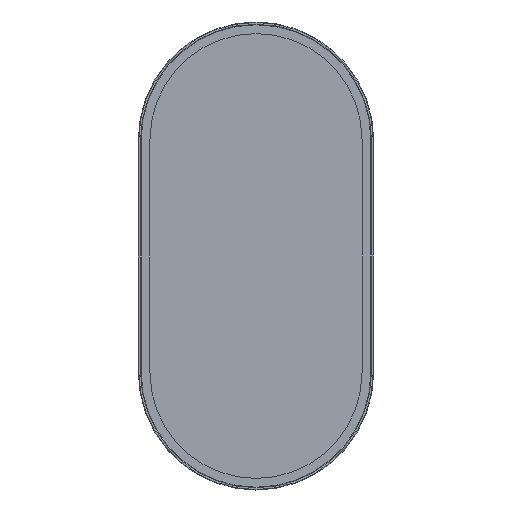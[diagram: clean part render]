
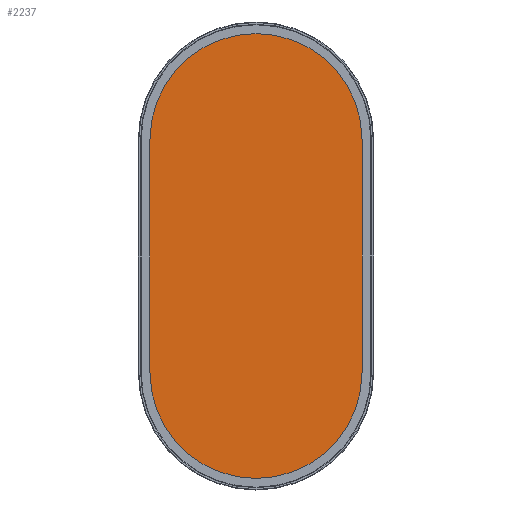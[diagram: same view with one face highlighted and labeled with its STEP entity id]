
A CAD part, front view. The second image highlights one B-rep face of the part: STEP entity #2237.
In plain terms, the highlighted planar face has unit normal (0, -1, 0).
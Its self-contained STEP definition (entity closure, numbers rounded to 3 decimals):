
#158=CIRCLE('',#2475,228.);
#160=CIRCLE('',#2479,228.);
#430=ORIENTED_EDGE('',*,*,#958,.T.);
#431=ORIENTED_EDGE('',*,*,#962,.T.);
#432=ORIENTED_EDGE('',*,*,#965,.T.);
#433=ORIENTED_EDGE('',*,*,#968,.T.);
#958=EDGE_CURVE('',#1242,#1243,#1442,.T.);
#962=EDGE_CURVE('',#1243,#1246,#158,.T.);
#965=EDGE_CURVE('',#1246,#1248,#1447,.T.);
#968=EDGE_CURVE('',#1248,#1242,#160,.T.);
#1242=VERTEX_POINT('',#3519);
#1243=VERTEX_POINT('',#3520);
#1246=VERTEX_POINT('',#3528);
#1248=VERTEX_POINT('',#3534);
#1442=LINE('',#3518,#1650);
#1447=LINE('',#3533,#1655);
#1650=VECTOR('',#2855,1000.);
#1655=VECTOR('',#2868,1000.);
#1861=EDGE_LOOP('',(#430,#431,#432,#433));
#2019=FACE_BOUND('',#1861,.T.);
#2144=PLANE('',#2482);
#2237=ADVANCED_FACE('',(#2019),#2144,.T.);
#2475=AXIS2_PLACEMENT_3D('',#3527,#2861,#2862);
#2479=AXIS2_PLACEMENT_3D('',#3539,#2873,#2874);
#2482=AXIS2_PLACEMENT_3D('',#3542,#2879,#2880);
#2855=DIRECTION('',(0.,0.,1.));
#2861=DIRECTION('',(0.,-1.,0.));
#2862=DIRECTION('',(1.,0.,0.));
#2868=DIRECTION('',(0.,0.,-1.));
#2873=DIRECTION('',(0.,-1.,0.));
#2874=DIRECTION('',(-1.,0.,0.));
#2879=DIRECTION('',(0.,-1.,0.));
#2880=DIRECTION('',(0.,0.,-1.));
#3518=CARTESIAN_POINT('',(505.123,0.,268.895));
#3519=CARTESIAN_POINT('',(505.123,0.,268.895));
#3520=CARTESIAN_POINT('',(505.123,0.,768.895));
#3527=CARTESIAN_POINT('',(277.123,0.,768.895));
#3528=CARTESIAN_POINT('',(49.123,0.,768.895));
#3533=CARTESIAN_POINT('',(49.123,0.,768.895));
#3534=CARTESIAN_POINT('',(49.123,0.,268.895));
#3539=CARTESIAN_POINT('',(277.123,0.,268.895));
#3542=CARTESIAN_POINT('',(277.123,0.,768.895));
